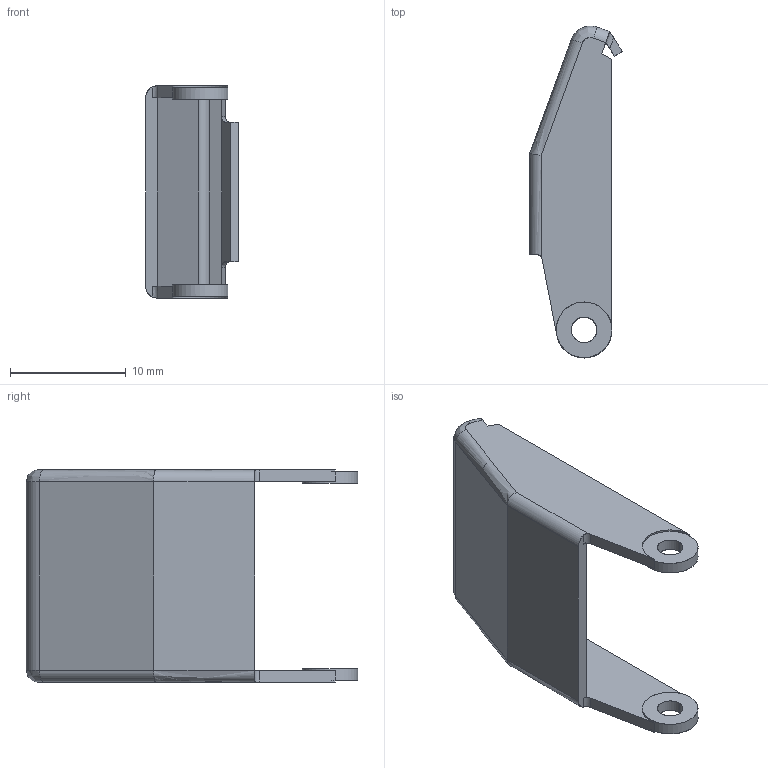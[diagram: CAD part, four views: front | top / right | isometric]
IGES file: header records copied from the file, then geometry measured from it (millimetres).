
Start section: SolidWorks IGES FILE using analytic representation for surfaces
Global section: file name: C:\Documents and Settings\lecoutey\Bureau\GO 17\17.030.10.IGS; native system: SolidWorks 2004 by SolidWorks Corporation; preprocessor: Version 5.3; author: lecoutey; date: 050329.093203; units: millimetre
Bounding box: 8 x 28.61 x 18.3 mm (x, y, z)
Surface area: 1503.3 mm2 (no closed solid volume)
Topology: 0 solids, 0 shells, 53 faces, 656 edges, 656 vertices
Faces by surface type: bspline 30, revolution 23
